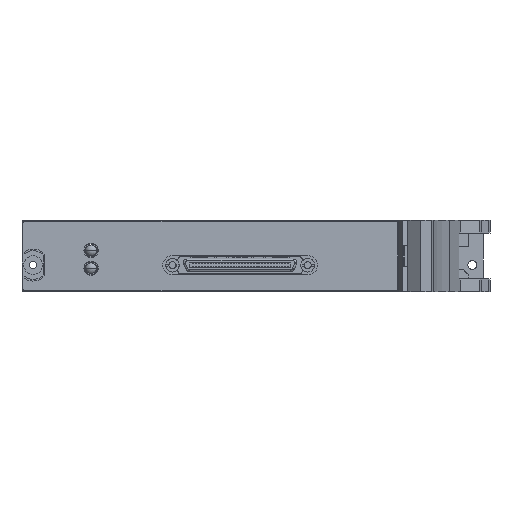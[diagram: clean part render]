
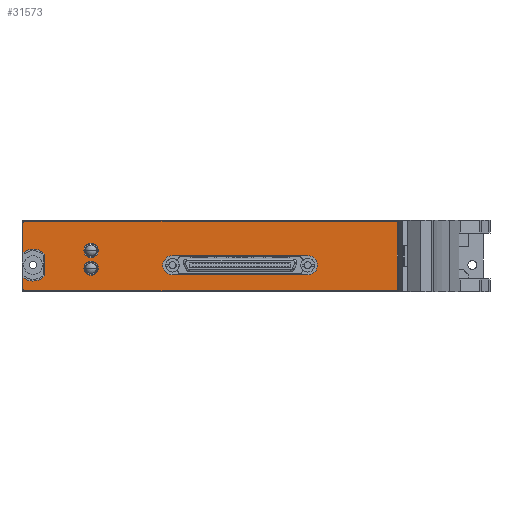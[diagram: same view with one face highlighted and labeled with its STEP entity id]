
A CAD part, left-side view. The second image highlights one B-rep face of the part: STEP entity #31573.
In plain terms, the highlighted planar face has unit normal (-1, 0, 0).
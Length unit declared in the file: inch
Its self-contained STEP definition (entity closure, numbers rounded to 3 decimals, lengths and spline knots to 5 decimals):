
#3728=CARTESIAN_POINT('',(-0.21545,0.53501,0.66599));
#3729=DIRECTION('',(-1.,0.,0.));
#3730=DIRECTION('',(0.,0.,1.));
#3731=AXIS2_PLACEMENT_3D('',#3728,#3729,#3730);
#3733=DIRECTION('',(0.,1.,0.));
#3734=VECTOR('',#3733,4.07);
#3735=CARTESIAN_POINT('',(-0.21545,-3.53499,0.68599));
#3736=LINE('',#3735,#3734);
#3737=CARTESIAN_POINT('',(-0.21545,-3.53499,0.66599));
#3738=DIRECTION('',(-1.,0.,0.));
#3739=DIRECTION('',(0.,-1.,0.));
#3740=AXIS2_PLACEMENT_3D('',#3737,#3738,#3739);
#3742=DIRECTION('',(0.,0.,1.));
#3743=VECTOR('',#3742,0.728);
#3744=CARTESIAN_POINT('',(-0.21545,-3.55499,-0.06201));
#3745=LINE('',#3744,#3743);
#3746=CARTESIAN_POINT('',(-0.21545,-3.53499,-0.06201));
#3747=DIRECTION('',(-1.,0.,0.));
#3748=DIRECTION('',(0.,0.,-1.));
#3749=AXIS2_PLACEMENT_3D('',#3746,#3747,#3748);
#3751=DIRECTION('',(0.,-1.,0.));
#3752=VECTOR('',#3751,4.07);
#3753=CARTESIAN_POINT('',(-0.21545,0.53501,-0.08201));
#3754=LINE('',#3753,#3752);
#3755=CARTESIAN_POINT('',(-0.21545,0.53501,-0.06201));
#3756=DIRECTION('',(-1.,0.,0.));
#3757=DIRECTION('',(0.,1.,0.));
#3758=AXIS2_PLACEMENT_3D('',#3755,#3756,#3757);
#3760=DIRECTION('',(0.,0.,-1.));
#3761=VECTOR('',#3760,0.12953);
#3762=CARTESIAN_POINT('',(-0.21545,0.55501,0.06753));
#3763=LINE('',#3762,#3761);
#3764=CARTESIAN_POINT('',(-0.21545,0.44301,0.20199));
#3765=DIRECTION('',(1.,0.,0.));
#3766=DIRECTION('',(0.,-0.737,-0.676));
#3767=AXIS2_PLACEMENT_3D('',#3764,#3765,#3766);
#3769=DIRECTION('',(0.,0.,-1.));
#3770=VECTOR('',#3769,0.23651);
#3771=CARTESIAN_POINT('',(-0.21545,0.31401,0.32025));
#3772=LINE('',#3771,#3770);
#3773=CARTESIAN_POINT('',(-0.21545,0.44301,0.20199));
#3774=DIRECTION('',(1.,0.,0.));
#3775=DIRECTION('',(0.,0.64,0.768));
#3776=AXIS2_PLACEMENT_3D('',#3773,#3774,#3775);
#3778=DIRECTION('',(0.,0.,-1.));
#3779=VECTOR('',#3778,0.32953);
#3780=CARTESIAN_POINT('',(-0.21545,0.55501,0.66599));
#3781=LINE('',#3780,#3779);
#3782=CARTESIAN_POINT('',(-0.21545,-1.08678,
0.20079));
#3783=DIRECTION('',(-1.,0.,0.));
#3784=DIRECTION('',(0.,0.,1.));
#3785=AXIS2_PLACEMENT_3D('',#3782,#3783,#3784);
#3787=DIRECTION('',(0.,-1.,0.));
#3788=VECTOR('',#3787,1.48425);
#3789=CARTESIAN_POINT('',(-0.21545,-1.08678,
0.09479));
#3790=LINE('',#3789,#3788);
#3791=CARTESIAN_POINT('',(-0.21545,-2.57103,
0.20079));
#3792=DIRECTION('',(-1.,0.,0.));
#3793=DIRECTION('',(0.,0.,-1.));
#3794=AXIS2_PLACEMENT_3D('',#3791,#3792,#3793);
#3796=DIRECTION('',(0.,1.,0.));
#3797=VECTOR('',#3796,1.48425);
#3798=CARTESIAN_POINT('',(-0.21545,-2.57103,
0.30679));
#3799=LINE('',#3798,#3797);
#3800=CARTESIAN_POINT('',(-0.21545,-0.1935,0.36299));
#3801=DIRECTION('',(-1.,0.,0.));
#3802=DIRECTION('',(0.,0.,1.));
#3803=AXIS2_PLACEMENT_3D('',#3800,#3801,#3802);
#3805=CARTESIAN_POINT('',(-0.21545,-0.1935,0.36299));
#3806=DIRECTION('',(-1.,0.,0.));
#3807=DIRECTION('',(0.,0.,-1.));
#3808=AXIS2_PLACEMENT_3D('',#3805,#3806,#3807);
#3810=CARTESIAN_POINT('',(-0.21545,-0.1935,0.16799));
#3811=DIRECTION('',(-1.,0.,0.));
#3812=DIRECTION('',(0.,0.,1.));
#3813=AXIS2_PLACEMENT_3D('',#3810,#3811,#3812);
#3815=CARTESIAN_POINT('',(-0.21545,-0.1935,0.16799));
#3816=DIRECTION('',(-1.,0.,0.));
#3817=DIRECTION('',(0.,0.,-1.));
#3818=AXIS2_PLACEMENT_3D('',#3815,#3816,#3817);
#21495=CARTESIAN_POINT('',(-0.21545,0.53501,0.68599));
#21496=CARTESIAN_POINT('',(-0.21545,0.55501,0.66599));
#21497=VERTEX_POINT('',#21495);
#21498=VERTEX_POINT('',#21496);
#21499=CARTESIAN_POINT('',(-0.21545,0.55501,0.33646));
#21500=VERTEX_POINT('',#21499);
#21501=CARTESIAN_POINT('',(-0.21545,0.31401,0.32025));
#21502=VERTEX_POINT('',#21501);
#21503=CARTESIAN_POINT('',(-0.21545,0.31401,0.08374));
#21504=VERTEX_POINT('',#21503);
#21505=CARTESIAN_POINT('',(-0.21545,0.55501,0.06753));
#21506=VERTEX_POINT('',#21505);
#21507=CARTESIAN_POINT('',(-0.21545,0.55501,-0.06201));
#21508=VERTEX_POINT('',#21507);
#21509=CARTESIAN_POINT('',(-0.21545,0.53501,-0.08201));
#21510=VERTEX_POINT('',#21509);
#21511=CARTESIAN_POINT('',(-0.21545,-3.53499,-0.08201));
#21512=VERTEX_POINT('',#21511);
#21513=CARTESIAN_POINT('',(-0.21545,-3.55499,-0.06201));
#21514=VERTEX_POINT('',#21513);
#21515=CARTESIAN_POINT('',(-0.21545,-3.55499,0.66599));
#21516=VERTEX_POINT('',#21515);
#21517=CARTESIAN_POINT('',(-0.21545,-3.53499,0.68599));
#21518=VERTEX_POINT('',#21517);
#21519=CARTESIAN_POINT('',(-0.21545,-1.08678,
0.30679));
#21520=CARTESIAN_POINT('',(-0.21545,-1.08678,
0.09479));
#21521=VERTEX_POINT('',#21519);
#21522=VERTEX_POINT('',#21520);
#21523=CARTESIAN_POINT('',(-0.21545,-2.57103,
0.09479));
#21524=VERTEX_POINT('',#21523);
#21525=CARTESIAN_POINT('',(-0.21545,-2.57103,
0.30679));
#21526=VERTEX_POINT('',#21525);
#21527=CARTESIAN_POINT('',(-0.21545,-0.1935,0.44149));
#21528=CARTESIAN_POINT('',(-0.21545,-0.1935,0.28449));
#21529=VERTEX_POINT('',#21527);
#21530=VERTEX_POINT('',#21528);
#21531=CARTESIAN_POINT('',(-0.21545,-0.1935,0.24649));
#21532=CARTESIAN_POINT('',(-0.21545,-0.1935,0.08949));
#21533=VERTEX_POINT('',#21531);
#21534=VERTEX_POINT('',#21532);
#31532=CARTESIAN_POINT('',(-0.21545,0.44301,0.20199));
#31533=DIRECTION('',(-1.,0.,0.));
#31534=DIRECTION('',(0.,0.,1.));
#31535=AXIS2_PLACEMENT_3D('',#31532,#31533,#31534);
#31536=PLANE('',#31535);
#31537=ORIENTED_EDGE('',*,*,#31372,.F.);
#31538=ORIENTED_EDGE('',*,*,#31387,.F.);
#31539=ORIENTED_EDGE('',*,*,#31401,.F.);
#31540=ORIENTED_EDGE('',*,*,#31415,.F.);
#31541=ORIENTED_EDGE('',*,*,#31429,.F.);
#31542=ORIENTED_EDGE('',*,*,#31443,.F.);
#31543=ORIENTED_EDGE('',*,*,#31457,.F.);
#31544=ORIENTED_EDGE('',*,*,#31471,.F.);
#31545=ORIENTED_EDGE('',*,*,#31485,.F.);
#31546=ORIENTED_EDGE('',*,*,#31499,.F.);
#31547=ORIENTED_EDGE('',*,*,#31513,.F.);
#31548=ORIENTED_EDGE('',*,*,#31526,.F.);
#31549=EDGE_LOOP('',(#31537,#31538,#31539,#31540,#31541,#31542,#31543,#31544,
#31545,#31546,#31547,#31548));
#31550=FACE_OUTER_BOUND('',#31549,.F.);
#31552=ORIENTED_EDGE('',*,*,#31551,.T.);
#31554=ORIENTED_EDGE('',*,*,#31553,.T.);
#31556=ORIENTED_EDGE('',*,*,#31555,.T.);
#31558=ORIENTED_EDGE('',*,*,#31557,.T.);
#31559=EDGE_LOOP('',(#31552,#31554,#31556,#31558));
#31560=FACE_BOUND('',#31559,.F.);
#31562=ORIENTED_EDGE('',*,*,#31561,.T.);
#31564=ORIENTED_EDGE('',*,*,#31563,.T.);
#31565=EDGE_LOOP('',(#31562,#31564));
#31566=FACE_BOUND('',#31565,.F.);
#31568=ORIENTED_EDGE('',*,*,#31567,.T.);
#31570=ORIENTED_EDGE('',*,*,#31569,.T.);
#31571=EDGE_LOOP('',(#31568,#31570));
#31572=FACE_BOUND('',#31571,.F.);
#31573=ADVANCED_FACE('',(#31550,#31560,#31566,#31572),#31536,.T.);
#3732=CIRCLE('',#3731,0.02);
#3741=CIRCLE('',#3740,0.02);
#3750=CIRCLE('',#3749,0.02);
#3759=CIRCLE('',#3758,0.02);
#3768=CIRCLE('',#3767,0.175);
#3777=CIRCLE('',#3776,0.175);
#3786=CIRCLE('',#3785,0.106);
#3795=CIRCLE('',#3794,0.106);
#3804=CIRCLE('',#3803,0.0785);
#3809=CIRCLE('',#3808,0.0785);
#3814=CIRCLE('',#3813,0.0785);
#3819=CIRCLE('',#3818,0.0785);
#31372=EDGE_CURVE('',#21497,#21498,#3732,.T.);
#31387=EDGE_CURVE('',#21518,#21497,#3736,.T.);
#31401=EDGE_CURVE('',#21516,#21518,#3741,.T.);
#31415=EDGE_CURVE('',#21514,#21516,#3745,.T.);
#31429=EDGE_CURVE('',#21512,#21514,#3750,.T.);
#31443=EDGE_CURVE('',#21510,#21512,#3754,.T.);
#31457=EDGE_CURVE('',#21508,#21510,#3759,.T.);
#31471=EDGE_CURVE('',#21506,#21508,#3763,.T.);
#31485=EDGE_CURVE('',#21504,#21506,#3768,.T.);
#31499=EDGE_CURVE('',#21502,#21504,#3772,.T.);
#31513=EDGE_CURVE('',#21500,#21502,#3777,.T.);
#31526=EDGE_CURVE('',#21498,#21500,#3781,.T.);
#31551=EDGE_CURVE('',#21521,#21522,#3786,.T.);
#31553=EDGE_CURVE('',#21522,#21524,#3790,.T.);
#31555=EDGE_CURVE('',#21524,#21526,#3795,.T.);
#31557=EDGE_CURVE('',#21526,#21521,#3799,.T.);
#31561=EDGE_CURVE('',#21529,#21530,#3804,.T.);
#31563=EDGE_CURVE('',#21530,#21529,#3809,.T.);
#31567=EDGE_CURVE('',#21533,#21534,#3814,.T.);
#31569=EDGE_CURVE('',#21534,#21533,#3819,.T.);
